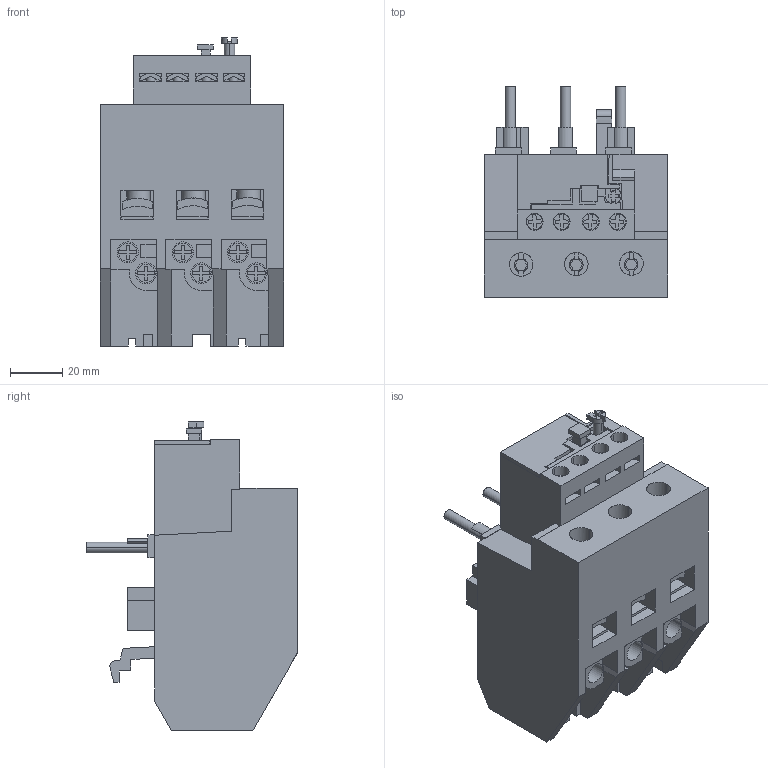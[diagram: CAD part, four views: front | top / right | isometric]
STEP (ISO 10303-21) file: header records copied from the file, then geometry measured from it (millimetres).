
FILE_DESCRIPTION((''),'2;1');
FILE_NAME('LRD33XXC-3D_ASM','2022-09-09T14:39:05',('SESA507772'),('Schneider-Electric'),'CREO PARAMETRIC BY PTC INC, 2021284','CREO PARAMETRIC BY PTC INC, 2021284','');
FILE_SCHEMA(('AP242_MANAGED_MODEL_BASED_3D_ENGINEERING_MIM_LF { 1 0 10303 442 1 1 4 }'));
Length unit declared in the file: millimetre
Products named in the file (2): LRD33XXC; LRD33XXC-3D_ASM
Assembly tree (1 placements, depth 2):
  LRD33XXC-3D_ASM
    LRD33XXC
Bounding box: 70.02 x 80.5 x 117.66 mm (x, y, z)
Volume: 312124.9 mm3; surface area: 52430 mm2
Topology: 2 solids, 2 shells, 644 faces, 1770 edges, 1170 vertices
Faces by surface type: plane 483, cylinder 137, extrusion 24
Entity records: 30908 total; most frequent: CARTESIAN_POINT 4372, ORIENTED_EDGE 3540, DIRECTION 3236, PRESENTATION_STYLE_ASSIGNMENT 2170, STYLED_ITEM 1788, CURVE_STYLE 1786, EDGE_CURVE 1770, VECTOR 1414
